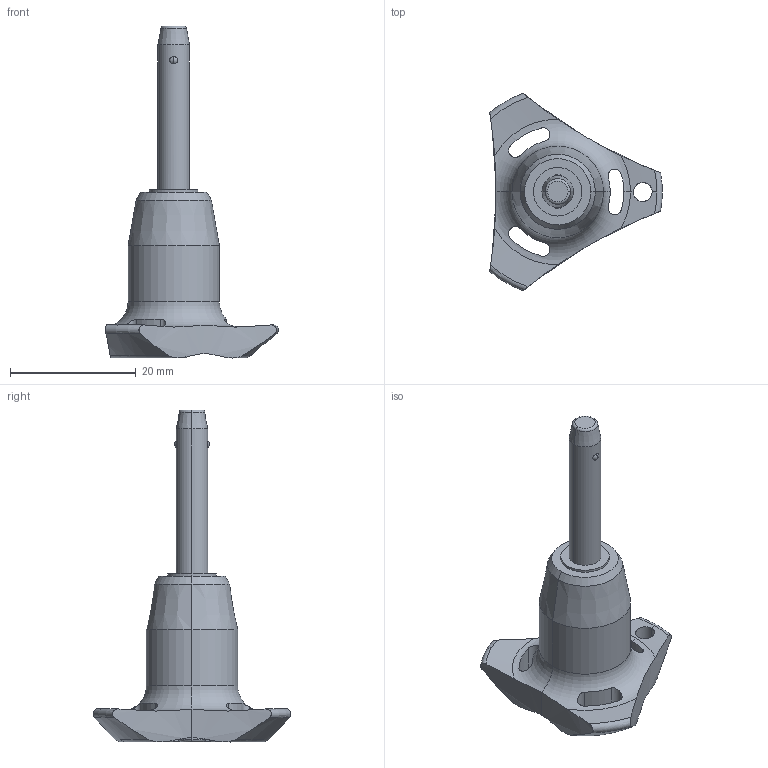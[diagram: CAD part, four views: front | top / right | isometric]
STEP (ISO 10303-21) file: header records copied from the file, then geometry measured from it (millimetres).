
FILE_DESCRIPTION (( 'STEP AP203' ), '1' );
FILE_NAME ('QR1734.M05-020-S.step', '2025-11-12T14:10:44', ( '' ), ( '' ), 'SwSTEP 2.0', 'SolidWorks 2019', '' );
FILE_SCHEMA (( 'CONFIG_CONTROL_DESIGN' ));
Length unit declared in the file: millimetre
Products named in the file (1): QR1734.M05-020-S
Bounding box: 27.4 x 31.31 x 52.7 mm (x, y, z)
Volume: 5260.7 mm3; surface area: 2822.4 mm2
Topology: 1 solids, 1 shells, 66 faces, 181 edges, 115 vertices
Faces by surface type: cylinder 30, cone 14, torus 12, sphere 6, plane 4
Entity records: 2693 total; most frequent: CARTESIAN_POINT 981, ORIENTED_EDGE 362, DIRECTION 332, EDGE_CURVE 181, AXIS2_PLACEMENT_3D 148, VERTEX_POINT 115, CIRCLE 81, EDGE_LOOP 72
